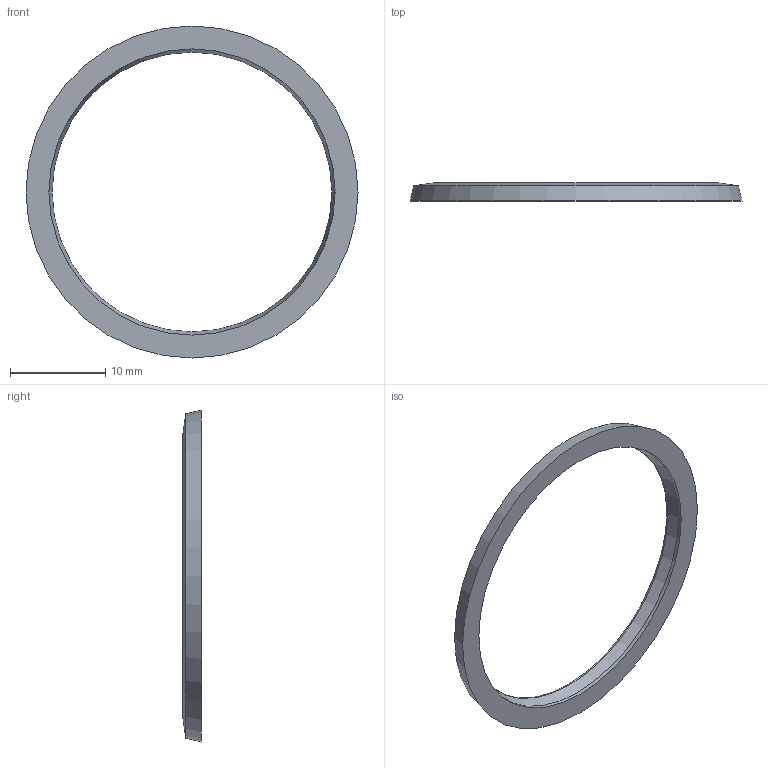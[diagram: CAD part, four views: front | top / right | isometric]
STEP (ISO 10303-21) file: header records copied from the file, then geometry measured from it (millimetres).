
FILE_DESCRIPTION( ( 'STEP AP203' ), '1' );
FILE_NAME( 'C:/Temp/Ganter_Step_05_03_2020/data/3_5/gn7600/Sealing ring GN 7600-34-30-2-HNBR-85.stp', '2020-03-12T13:43:52', ( 'License CC BY-ND 4.0' ), ( 'CADENAS' ), ' ', 'PARTsolutions', ' ' );
FILE_SCHEMA( ( 'CONFIG_CONTROL_DESIGN' ) );
Length unit declared in the file: millimetre
Products named in the file (1): _Sealing ring GN 7600-34-30-2-HNBR-85
Bounding box: 34.8 x 1.9 x 34.8 mm (x, y, z)
Volume: 410.5 mm3; surface area: 831 mm2
Topology: 1 solids, 1 shells, 6 faces, 11 edges, 6 vertices
Faces by surface type: cone 3, torus 1, cylinder 1, plane 1
Full cylindrical faces by diameter (mm): 30 x1
Entity records: 172 total; most frequent: DIRECTION 26, CARTESIAN_POINT 19, AXIS2_PLACEMENT_3D 13, EDGE_LOOP 12, ORIENTED_EDGE 12, FACE_OUTER_BOUND 8, ADVANCED_FACE 6, EDGE_CURVE 6
